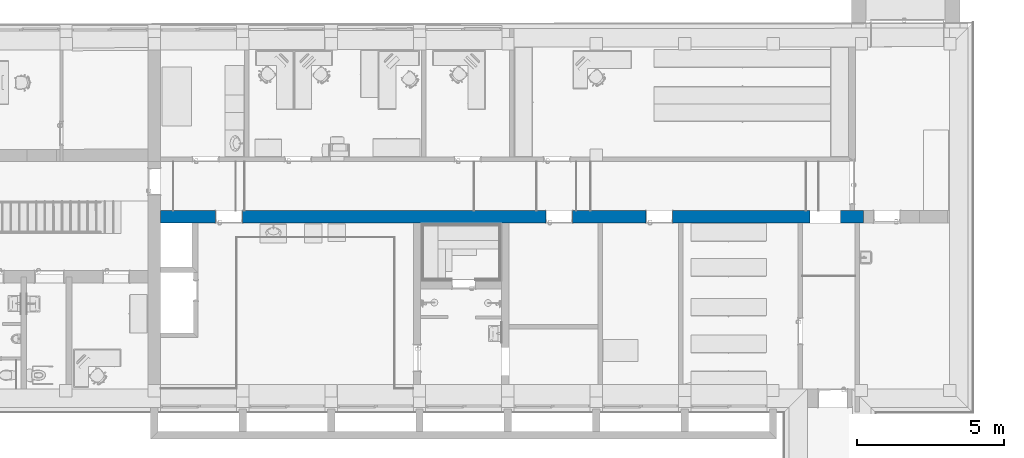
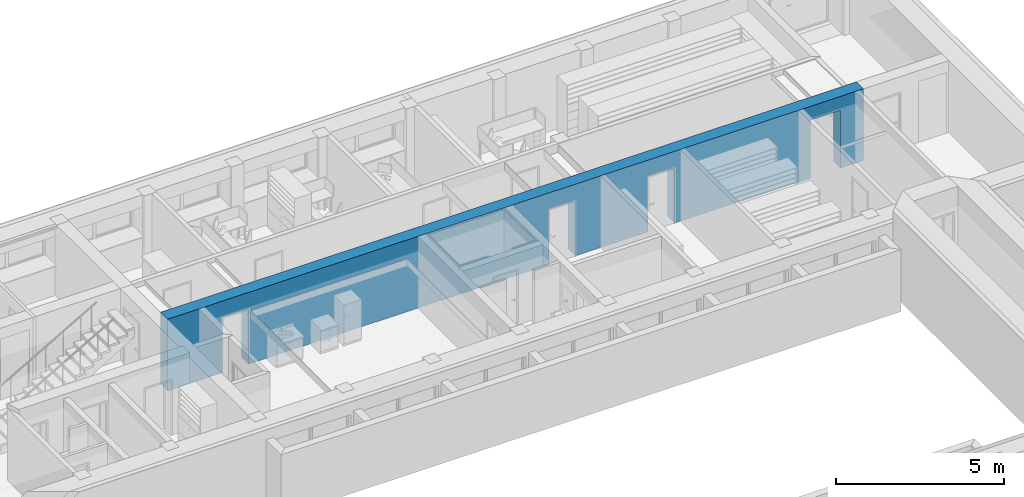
# One storey, part 24 of 127: 1 wall, 4 openings.
"""IFC2X3 building model written with IfcOpenShell, lengths in millimetres."""

import ifcopenshell
import ifcopenshell.guid

model = None  # the IFC model being written
_history = None  # IfcOwnerHistory: only IFC2X3 demands one
_inside = {}  # id of a spatial element -> (the spatial element, [elements in it])
_under = {}  # id of a project, library or spatial element -> (it, [spatial elements below it])
_declared = {}  # id of a project -> (the project, [libraries it declares])
_typed = {}  # id of a type object -> (the type object, [elements of that type])
_made_of = {}  # id of a material, layer set ... -> (it, [elements and type objects made of it])


def new_model(schema):
    """Start an empty IFC model of exactly this schema.

    Asked for "IFC4X3", IfcOpenShell would pick the latest addendum, in which some entities
    have other attributes; the version numbers below select the first issue.
    IFC2X3 requires an IfcOwnerHistory on every rooted entity: one is made here for all.
    """
    global model, _history
    if schema == "IFC4X3":
        model = ifcopenshell.file(schema_version=(4, 3, 0, 0))
    else:
        model = ifcopenshell.file(schema=schema)
    _inside.clear()
    _under.clear()
    _declared.clear()
    _typed.clear()
    _made_of.clear()
    _history = None
    if model.schema == "IFC2X3":
        org = make("IfcOrganization", Name="unknown")
        user = make(
            "IfcPersonAndOrganization",
            ThePerson=make("IfcPerson", FamilyName="unknown"),
            TheOrganization=org,
        )
        app = make(
            "IfcApplication",
            ApplicationDeveloper=org,
            Version="unknown",
            ApplicationFullName="unknown",
            ApplicationIdentifier="unknown",
        )
        _history = make(
            "IfcOwnerHistory",
            OwningUser=user,
            OwningApplication=app,
            ChangeAction="ADDED",
            CreationDate=0,
        )
    return model


def make(cls, **values):
    """One entity of the class cls with the attributes given. An attribute that is None is left unset."""
    return model.create_entity(
        cls, **{name: value for name, value in values.items() if value is not None}
    )


def entity(cls, *values):
    """Any entity or typed value of the class cls, its attributes in the order of the schema. None: left unset."""
    e = model.create_entity(cls)
    for i, value in enumerate(values):
        if value is not None:
            e[i] = value
    return e


def rooted(cls, **values):
    """An entity with a GlobalId (a new one), such as an element, a storey or a relation."""
    return make(cls, GlobalId=ifcopenshell.guid.new(), OwnerHistory=_history, **values)


def si_unit(unit_type, name, prefix=None):
    """IfcSIUnit, for example si_unit("LENGTHUNIT", "METRE", prefix="MILLI")."""
    return make("IfcSIUnit", UnitType=unit_type, Prefix=prefix, Name=name)


def converted_unit(unit_type, name, factor, base, dimensions=None, offset=None):
    """IfcConversionBasedUnit, such as the inch: factor (a typed value) times the base unit."""
    return make(
        "IfcConversionBasedUnit"
        if offset is None
        else "IfcConversionBasedUnitWithOffset",
        ConversionOffset=offset,
        Dimensions=None
        if dimensions is None
        else entity("IfcDimensionalExponents", *dimensions),
        UnitType=unit_type,
        Name=name,
        ConversionFactor=make(
            "IfcMeasureWithUnit", ValueComponent=factor, UnitComponent=base
        ),
    )


def derived_unit(unit_type, elements):
    """IfcDerivedUnit: a product of units, each with its exponent."""
    return make(
        "IfcDerivedUnit",
        Elements=[
            make("IfcDerivedUnitElement", Unit=unit, Exponent=power)
            for unit, power in elements
        ],
        UnitType=unit_type,
    )


def money_unit(currency):
    """IfcMonetaryUnit."""
    return make("IfcMonetaryUnit", Currency=currency)


def assignment(units):
    """IfcUnitAssignment: the units of a project."""
    return None if units is None else make("IfcUnitAssignment", Units=units)


def point(xyz):
    """IfcCartesianPoint."""
    return None if xyz is None else make("IfcCartesianPoint", Coordinates=xyz)


def direction(xyz):
    """IfcDirection."""
    return None if xyz is None else make("IfcDirection", DirectionRatios=xyz)


def frame(location, z_axis=None, x_axis=None):
    """IfcAxis2Placement3D, a coordinate frame: its origin and axes. An axis left out is left unset."""
    return make(
        "IfcAxis2Placement3D",
        Location=point(location),
        Axis=direction(z_axis),
        RefDirection=direction(x_axis),
    )


def frame_2d(location, x_axis=None):
    """IfcAxis2Placement2D, a coordinate frame in the plane: its origin and x axis."""
    return make(
        "IfcAxis2Placement2D", Location=point(location), RefDirection=direction(x_axis)
    )


def origin_with_axes():
    """The frame at (0, 0, 0) with the z axis (0, 0, 1) and the x axis (1, 0, 0) written out."""
    return frame((0.0, 0.0, 0.0), z_axis=(0.0, 0.0, 1.0), x_axis=(1.0, 0.0, 0.0))


def origin_2d_with_axis():
    """The frame at (0, 0) in the plane with the x axis (1, 0) written out."""
    return frame_2d((0.0, 0.0), x_axis=(1.0, 0.0))


def place(relative_to, where):
    """IfcLocalPlacement: puts the frame where relative to a parent placement (None: the world)."""
    return make(
        "IfcLocalPlacement", PlacementRelTo=relative_to, RelativePlacement=where
    )


def context(
    kind, dimensions, precision=None, world=None, true_north=None, identifier=None
):
    """IfcGeometricRepresentationContext, for example the 3D "Model" context."""
    return make(
        "IfcGeometricRepresentationContext",
        ContextIdentifier=identifier,
        ContextType=kind,
        CoordinateSpaceDimension=dimensions,
        Precision=precision,
        WorldCoordinateSystem=world,
        TrueNorth=true_north,
    )


def subcontext(parent, identifier, kind, view, scale=None):
    """IfcGeometricRepresentationSubContext, for example "Body" below "Model"."""
    return make(
        "IfcGeometricRepresentationSubContext",
        ContextIdentifier=identifier,
        ContextType=kind,
        ParentContext=parent,
        TargetScale=scale,
        TargetView=view,
    )


def project(units=None, contexts=None):
    """IfcProject with its units and contexts."""
    return rooted(
        "IfcProject",
        Name="project",
        RepresentationContexts=contexts,
        UnitsInContext=assignment(units),
    )


def spatial(cls, under=None, at=None, **own):
    """A site, building, storey or space (cls), placed at a placement, below another one or the project."""
    s = rooted(cls, ObjectPlacement=at, **own)
    if under is not None:
        _under.setdefault(under.id(), (under, []))[1].append(s)
    return s


def polyline(points):
    """IfcPolyline through the points."""
    return make("IfcPolyline", Points=[point(p) for p in points])


def profile(cls, at=None, kind="AREA", **sizes):
    """A parametric profile (cls). Its sizes go by their IFC names, for example OverallWidth=200.0."""
    return make(cls, ProfileType=kind, Position=at, **sizes)


def rectangle(**sizes):
    """IfcRectangleProfileDef."""
    return profile("IfcRectangleProfileDef", **sizes)


def outline(outer, holes=None, kind="AREA"):
    """IfcArbitraryClosedProfileDef: a profile drawn as a closed curve; with holes, ...WithVoids."""
    if holes is None:
        return make("IfcArbitraryClosedProfileDef", ProfileType=kind, OuterCurve=outer)
    return make(
        "IfcArbitraryProfileDefWithVoids",
        ProfileType=kind,
        OuterCurve=outer,
        InnerCurves=holes,
    )


def extrude(swept, where, along, depth):
    """IfcExtrudedAreaSolid: the profile swept, set in the frame where, extruded along a direction by depth."""
    return make(
        "IfcExtrudedAreaSolid",
        SweptArea=swept,
        Position=where,
        ExtrudedDirection=direction(along),
        Depth=depth,
    )


def shape(context_of_items, identifier, shape_type, items):
    """IfcShapeRepresentation: the items that make up one representation, for example the "Body"."""
    return make(
        "IfcShapeRepresentation",
        ContextOfItems=context_of_items,
        RepresentationIdentifier=identifier,
        RepresentationType=shape_type,
        Items=items,
    )


def material(Name=None, Category=None):
    """IfcMaterial."""
    return make("IfcMaterial", Name=Name, Category=Category)


def layer(
    of_material, thickness, ventilated=None, Name=None, Category=None, Priority=None
):
    """IfcMaterialLayer: one layer of a wall or slab, of a material (None: an air gap)."""
    return make(
        "IfcMaterialLayer",
        Material=of_material,
        LayerThickness=thickness,
        IsVentilated=ventilated,
        Name=Name,
        Category=Category,
        Priority=Priority,
    )


def layer_set(layers, Name=None):
    """IfcMaterialLayerSet."""
    return make("IfcMaterialLayerSet", MaterialLayers=layers, LayerSetName=Name)


def layer_usage(for_layer_set, set_direction, sense, offset, extent=None):
    """IfcMaterialLayerSetUsage: how a layer set lies in its element."""
    return make(
        "IfcMaterialLayerSetUsage",
        ForLayerSet=for_layer_set,
        LayerSetDirection=set_direction,
        DirectionSense=sense,
        OffsetFromReferenceLine=offset,
        ReferenceExtent=extent,
    )


def made_of(thing, what):
    """Note that an element or type object is made of a material, layer set ...; save() writes the relation."""
    if what is not None:
        _made_of.setdefault(what.id(), (what, []))[1].append(thing)
    return thing


def type_object(cls, material=None, **own):
    """A type object (cls), such as IfcWallType, which elements share."""
    return made_of(rooted(cls, **own), material)


def element(
    cls,
    number,
    at=None,
    inside=None,
    cuts=None,
    type_object=None,
    material=None,
    context=None,
    identifier="Body",
    shape_type=None,
    held_by="IfcProductDefinitionShape",
    body=None,
    shapes=None,
    **own,
):
    """One element of the class cls, such as IfcWall. Its Tag is "e" and its number.

    at: its placement. inside: the storey or other place that contains it. cuts: it is an
    opening in that element (IfcRelVoidsElement). A single representation is given by context,
    identifier, shape_type and body (its items); several are given by shapes. held_by: the class
    of the entity that holds the representations. save() writes the other relations.
    """
    e = rooted(cls, Tag="e%d" % number, ObjectPlacement=at, **own)
    if body is not None:
        shapes = [shape(context, identifier, shape_type, body)]
    if shapes is not None:
        e.Representation = make(held_by, Representations=shapes)
    if inside is not None:
        _inside.setdefault(inside.id(), (inside, []))[1].append(e)
    if cuts is not None:
        rooted(
            "IfcRelVoidsElement", RelatingBuildingElement=cuts, RelatedOpeningElement=e
        )
    if type_object is not None:
        _typed.setdefault(type_object.id(), (type_object, []))[1].append(e)
    return made_of(e, material)


def aggregate(whole, parts):
    """IfcRelAggregates: a whole, such as a stair, and the parts it consists of."""
    return rooted("IfcRelAggregates", RelatingObject=whole, RelatedObjects=parts)


def save(model, path):
    """Write the relations noted so far, then the file.

    IfcRelAggregates (storeys below a building ...), IfcRelContainedInSpatialStructure (elements
    in a storey), IfcRelDefinesByType, IfcRelAssociatesMaterial and IfcRelDeclares: one each for
    every whole, place, type object, material and project.
    """
    for whole, parts in _under.values():
        aggregate(whole, parts)
    for where, things in _inside.values():
        rooted(
            "IfcRelContainedInSpatialStructure",
            RelatedElements=things,
            RelatingStructure=where,
        )
    for kind, things in _typed.values():
        rooted("IfcRelDefinesByType", RelatedObjects=things, RelatingType=kind)
    for what, things in _made_of.values():
        rooted("IfcRelAssociatesMaterial", RelatedObjects=things, RelatingMaterial=what)
    for by, libraries in _declared.values():
        rooted("IfcRelDeclares", RelatingContext=by, RelatedDefinitions=libraries)
    model.write(path)


model = new_model("IFC2X3")

# Units and contexts
model_context = context("Model", 3, precision=1e-05, world=origin_with_axes(), true_north=direction((0.0, 1.0)))
body_context = subcontext(model_context, "Body", "Model", "MODEL_VIEW")
ifc_project = project(units=[si_unit("LENGTHUNIT", "METRE", prefix="MILLI"), si_unit("AREAUNIT", "SQUARE_METRE"), si_unit("VOLUMEUNIT", "CUBIC_METRE"), converted_unit("PLANEANGLEUNIT", "DEGREE", entity("IfcPlaneAngleMeasure", 0.0174532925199), si_unit("PLANEANGLEUNIT", "RADIAN"), dimensions=[0, 0, 0, 0, 0, 0, 0]), si_unit("SOLIDANGLEUNIT", "STERADIAN"), money_unit("EUR"), converted_unit("TIMEUNIT", "Year", entity("IfcTimeMeasure", 31556926.0), si_unit("TIMEUNIT", "SECOND"), dimensions=[0, 0, 1, 0, 0, 0, 0]), si_unit("MASSUNIT", "GRAM", prefix="KILO"), si_unit("THERMODYNAMICTEMPERATUREUNIT", "DEGREE_CELSIUS"), si_unit("LUMINOUSINTENSITYUNIT", "LUMEN"), si_unit("ENERGYUNIT", "JOULE", prefix="MEGA"), derived_unit("THERMALCONDUCTANCEUNIT", [(si_unit("POWERUNIT", "WATT"), 1), (si_unit("LENGTHUNIT", "METRE"), -1), (si_unit("THERMODYNAMICTEMPERATUREUNIT", "KELVIN"), -1)]), derived_unit("SPECIFICHEATCAPACITYUNIT", [(si_unit("ENERGYUNIT", "JOULE"), 1), (si_unit("MASSUNIT", "GRAM", prefix="KILO"), -1), (si_unit("THERMODYNAMICTEMPERATUREUNIT", "KELVIN"), -1)]), derived_unit("MASSDENSITYUNIT", [(si_unit("MASSUNIT", "GRAM", prefix="KILO"), 1), (si_unit("VOLUMEUNIT", "CUBIC_METRE"), -1)])], contexts=[model_context])

# Site, building, storey
site_placement = place(None, origin_with_axes())
site = spatial("IfcSite", under=ifc_project, at=site_placement, Name="Site", CompositionType="ELEMENT")
building_placement = place(site_placement, origin_with_axes())
building = spatial("IfcBuilding", under=site, at=building_placement, Name="Building", CompositionType="ELEMENT")
storey_placement = place(building_placement, origin_with_axes())
storey = spatial("IfcBuildingStorey", under=building, at=storey_placement, Name="1 KORRUS", CompositionType="ELEMENT", Elevation=0.0)

# Wall, openings
ifc_material = material(Name="Kivi -Ol.Olev Konstruktsioon")
ifc_layer = layer(ifc_material, 420.0, ventilated="UNKNOWN")
ifc_layer_set = layer_set([ifc_layer], Name="ol.olev ss 420")
ifc_layer_usage = layer_usage(ifc_layer_set, "AXIS2", "POSITIVE", 0.0)
wall_type = type_object("IfcWallType", Name="SW - 022", PredefinedType="NOTDEFINED")
wall_placement = place(storey_placement, frame((40014.8506787, 65636.3690561, 0.0), z_axis=(0.0, 0.0, 1.0), x_axis=(-1.0, 0.0, 0.0)))
wall = element("IfcWallStandardCase", 1, at=wall_placement, inside=storey, type_object=wall_type, material=ifc_layer_usage, Name="ol.olev ss 420", context=body_context, shape_type="SweptSolid", body=[
    extrude(outline(polyline([(0.0, 0.0), (23855.9731229, 0.0), (23855.9731229, 420.0), (0.0, 420.0), (0.0, 0.0)])), origin_with_axes(), (0.0, 0.0, 1.0), 2600.0),
])
opening_1_placement = place(wall_placement, frame((10328.903431, 0.0, 0.0), z_axis=(0.0, 0.0, 1.0), x_axis=(1.0, 0.0, 0.0)))
element("IfcOpeningElement", 2, at=opening_1_placement, cuts=wall, Name="Siseuks * Door 22", context=body_context, shape_type="SweptSolid", body=[
    extrude(rectangle(XDim=900.0, YDim=2000.0, at=origin_2d_with_axis()), frame((0.0, -420.0, 1000.0), z_axis=(0.0, -1.0, 0.0), x_axis=(-1.0, 0.0, 0.0)), (0.0, 0.0, -1.0), 1260.0),
    extrude(rectangle(XDim=974.0, YDim=2037.0, at=origin_2d_with_axis()), frame((0.0, 0.0, 1018.5), z_axis=(0.0, -1.0, 0.0), x_axis=(-1.0, 0.0, 0.0)), (0.0, 0.0, 1.0), 420.0),
    extrude(rectangle(XDim=974.0, YDim=2037.0, at=origin_2d_with_axis()), frame((0.0, 420.0, 1018.5), z_axis=(0.0, 1.0, 0.0), x_axis=(-1.0, 0.0, 0.0)), (0.0, 0.0, 1.0), 420.0),
])
opening_2_placement = place(wall_placement, frame((6929.22142979, 0.0, 0.0), z_axis=(0.0, 0.0, 1.0), x_axis=(1.0, 0.0, 0.0)))
element("IfcOpeningElement", 3, at=opening_2_placement, cuts=wall, Name="Siseuks * Door 22", context=body_context, shape_type="SweptSolid", body=[
    extrude(rectangle(XDim=900.0, YDim=2000.0, at=origin_2d_with_axis()), frame((0.0, -420.0, 1000.0), z_axis=(0.0, -1.0, 0.0), x_axis=(-1.0, 0.0, 0.0)), (0.0, 0.0, -1.0), 1260.0),
    extrude(rectangle(XDim=974.0, YDim=2037.0, at=origin_2d_with_axis()), frame((0.0, 0.0, 1018.5), z_axis=(0.0, -1.0, 0.0), x_axis=(-1.0, 0.0, 0.0)), (0.0, 0.0, 1.0), 420.0),
    extrude(rectangle(XDim=974.0, YDim=2037.0, at=origin_2d_with_axis()), frame((0.0, 420.0, 1018.5), z_axis=(0.0, 1.0, 0.0), x_axis=(-1.0, 0.0, 0.0)), (0.0, 0.0, 1.0), 420.0),
])
opening_3_placement = place(wall_placement, frame((1297.35709565, 0.0, 0.0), z_axis=(0.0, 0.0, 1.0), x_axis=(1.0, 0.0, 0.0)))
element("IfcOpeningElement", 4, at=opening_3_placement, cuts=wall, Name="Background;  Objekti nimi: Simple Door Opening", context=body_context, shape_type="SweptSolid", body=[
    extrude(rectangle(XDim=1025.49821776, YDim=2100.0, at=origin_2d_with_axis()), frame((0.0, 420.0, 1050.0), z_axis=(0.0, -1.0, 0.0), x_axis=(1.0, 0.0, 0.0)), (0.0, 0.0, -1.0), 420.0),
    extrude(rectangle(XDim=1025.49821776, YDim=2100.0, at=origin_2d_with_axis()), frame((0.0, 420.0, 1050.0), z_axis=(0.0, 1.0, 0.0), x_axis=(1.0, 0.0, 0.0)), (0.0, 0.0, -1.0), 420.0),
])
opening_4_placement = place(wall_placement, frame((21533.2418629, 0.0, 0.0), z_axis=(0.0, 0.0, 1.0), x_axis=(1.0, 0.0, 0.0)))
element("IfcOpeningElement", 5, at=opening_4_placement, cuts=wall, Name="Siseuks * Door 22", context=body_context, shape_type="SweptSolid", body=[
    extrude(rectangle(XDim=900.0, YDim=2000.0, at=origin_2d_with_axis()), frame((0.0, -420.0, 1000.0), z_axis=(0.0, -1.0, 0.0), x_axis=(-1.0, 0.0, 0.0)), (0.0, 0.0, -1.0), 1260.0),
    extrude(rectangle(XDim=974.0, YDim=2037.0, at=origin_2d_with_axis()), frame((0.0, 0.0, 1018.5), z_axis=(0.0, -1.0, 0.0), x_axis=(-1.0, 0.0, 0.0)), (0.0, 0.0, 1.0), 420.0),
    extrude(rectangle(XDim=974.0, YDim=2037.0, at=origin_2d_with_axis()), frame((0.0, 420.0, 1018.5), z_axis=(0.0, 1.0, 0.0), x_axis=(-1.0, 0.0, 0.0)), (0.0, 0.0, 1.0), 420.0),
])

save(model, "model.ifc")
